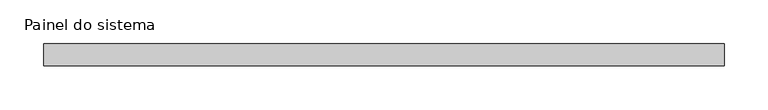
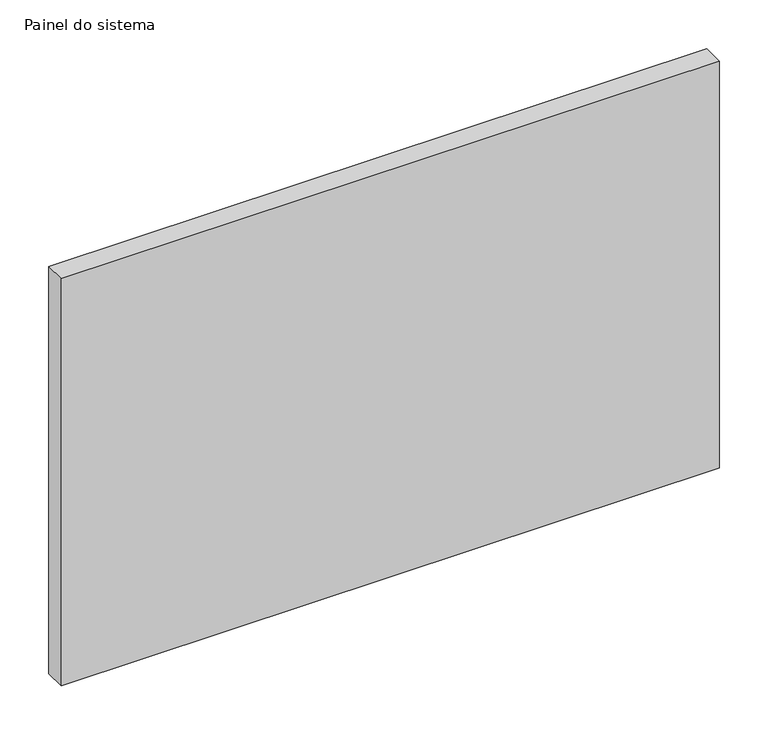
"""IFC4 building model written with IfcOpenShell, lengths in millimetres: plate geometry, Painel do sistema : Envidraçado."""

from ifc_helpers import new_model, si_unit, origin, origin_with_axes, place, context, project, spatial, polyline, outline, extrude, source, transform, mapped, element, save


def painel_do_sistema_237aa44d(model_context):
    return source(origin(), model_context, "Body", "SweptSolid", [
        extrude(outline(polyline([(387.7521688, 24.5), (-387.7521688, 24.5), (-387.7521688, 49.5), (387.7521688, 49.5), (387.7521688, 24.5)])), origin_with_axes(), (0.0, 0.0, 1.0), 507.5527297),
    ])


if __name__ == "__main__":
    model = new_model("IFC4")
    model_context = context("Model", 3, world=origin())
    ifc_project = project(units=[si_unit("LENGTHUNIT", "METRE", prefix="MILLI")], contexts=[model_context])
    site = spatial("IfcSite", under=ifc_project)
    building = spatial("IfcBuilding", under=site)
    placement = place(None, origin())
    painel_do_sistema_shape = painel_do_sistema_237aa44d(model_context)
    element("IfcPlate", 1, ObjectType="Painel do sistema : Envidraçado", at=placement, inside=building, context=model_context, shape_type="MappedRepresentation", body=[
        mapped(painel_do_sistema_shape, transform((0.0, 0.0, 0.0), x_axis=(1.0, 0.0, 0.0), y_axis=(0.0, 1.0, 0.0), z_axis=(0.0, 0.0, 1.0))),
    ])
    save(model, "model.ifc")
